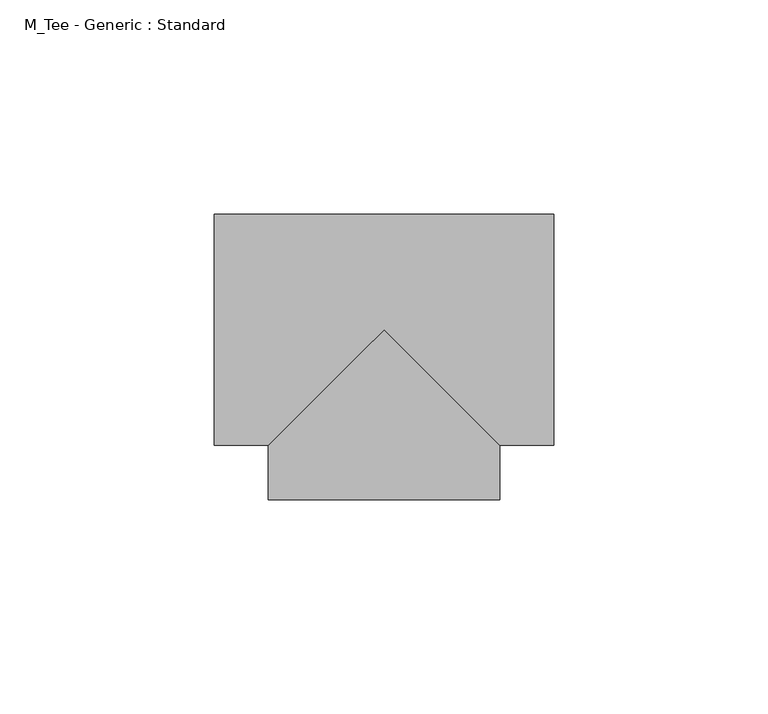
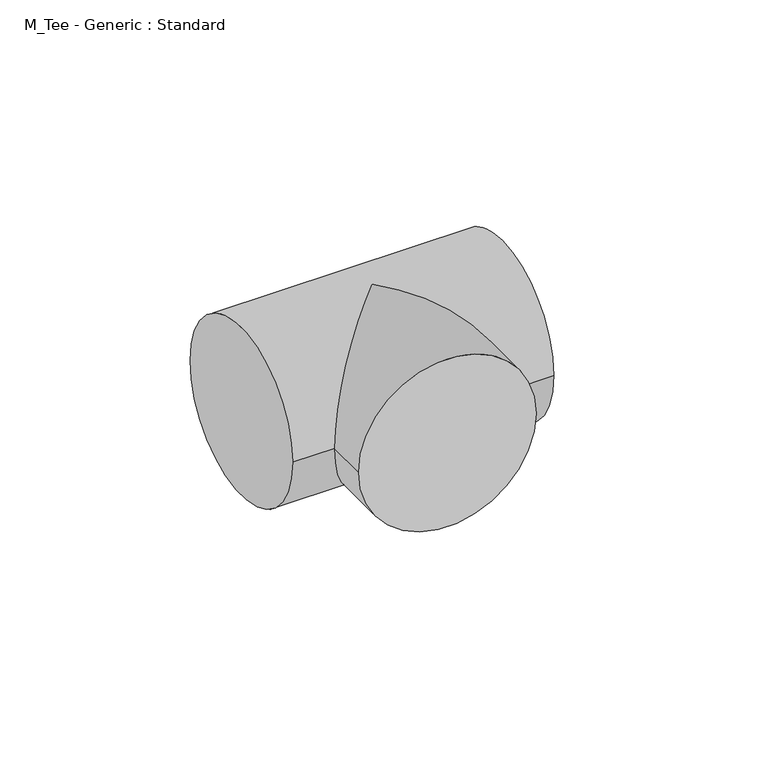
"""IFC4 building model written with IfcOpenShell, lengths in millimetres: pipe fitting geometry, M_Tee - Generic : Standard."""

from ifc_helpers import new_model, si_unit, frame, origin, place, context, project, spatial, circle_curve, ellipse_curve, source, transform, mapped, element, save
from ifc_brep_helpers import plane_surface, cylinder_surface, advanced_brep


def m_tee_generic_standard_1efde03b(model_context):
    return source(origin(), model_context, "Body", "AdvancedBrep", [
        advanced_brep(
        [(-39.6875, -26.9875, 0.0), (-39.6875, 26.9875, 0.0), (39.6875, -26.9875, 0.0), (39.6875, 26.9875, 0.0), (-26.9875, -26.9875, 0.0), (0.0, 0.0, 26.9875), (26.9875, -26.9875, 0.0), (0.0, 0.0, -26.9875), (-26.9875, -39.6875, 0.0), (26.9875, -39.6875, 0.0)],
        [
            (0, 1, circle_curve(frame((-39.6875, 0.0, 0.0), z_axis=(-1.0, 0.0, 0.0), x_axis=(0.0, 1.0, 0.0)), 26.9875)),
            (1, 0, circle_curve(frame((-39.6875, 0.0, 0.0), z_axis=(-1.0, 0.0, 0.0), x_axis=(0.0, 1.0, 0.0)), 26.9875)),
            (2, 3, circle_curve(frame((39.6875, 0.0, 0.0), z_axis=(1.0, 0.0, 0.0), x_axis=(0.0, 1.0, 0.0)), 26.9875)),
            (3, 2, circle_curve(frame((39.6875, 0.0, 0.0), z_axis=(1.0, 0.0, 0.0), x_axis=(0.0, 1.0, 0.0)), 26.9875)),
            (0, 4),
            (4, 5, ellipse_curve(frame((0.0, 0.0, 0.0), z_axis=(-0.707106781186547, 0.7071067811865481, 0.0), x_axis=(-0.707106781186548, -0.707106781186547, 0.0)), 38.1660885, 26.9875)),
            (5, 6, ellipse_curve(frame((0.0, 0.0, 0.0), z_axis=(0.707106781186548, 0.7071067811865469, 0.0), x_axis=(-0.707106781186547, 0.707106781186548, 0.0)), 38.1660885, 26.9875)),
            (6, 2),
            (3, 1),
            (6, 7, ellipse_curve(frame((0.0, 0.0, 0.0), z_axis=(0.707106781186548, 0.7071067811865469, 0.0), x_axis=(-0.707106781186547, 0.707106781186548, 0.0)), 38.1660885, 26.9875)),
            (7, 4, ellipse_curve(frame((0.0, 0.0, 0.0), z_axis=(-0.707106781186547, 0.7071067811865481, 0.0), x_axis=(-0.707106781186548, -0.707106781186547, 0.0)), 38.1660885, 26.9875)),
            (8, 9, circle_curve(frame((0.0, -39.6875, 0.0), z_axis=(0.0, -1.0, 0.0), x_axis=(1.0, 0.0, 0.0)), 26.9875)),
            (9, 8, circle_curve(frame((0.0, -39.6875, 0.0), z_axis=(0.0, -1.0, 0.0), x_axis=(1.0, 0.0, 0.0)), 26.9875)),
            (9, 6),
            (4, 8),
        ],
        [
            plane_surface(frame((-39.6875, 0.0, 0.0), z_axis=(-1.0, 0.0, 0.0), x_axis=(0.0, 0.0, 1.0))),
            plane_surface(frame((39.6875, 0.0, 0.0), z_axis=(1.0, 0.0, 0.0), x_axis=(0.0, 0.0, 1.0))),
            cylinder_surface(frame((-39.6875, 0.0, 0.0), z_axis=(-1.0, 0.0, 0.0), x_axis=(0.0, 1.0, 0.0)), 26.9875),
            plane_surface(frame((0.0, -39.6875, 0.0), z_axis=(0.0, -1.0, 0.0), x_axis=(0.0, 0.0, 1.0))),
            cylinder_surface(frame((0.0, 0.0, 0.0), z_axis=(0.0, 1.0, 0.0), x_axis=(1.0, 0.0, 0.0)), 26.9875),
        ],
        [
            (0, [[1, 2]]),
            (1, [[3, 4]]),
            (2, [[-1, 5, 6, 7, 8, -4, 9]]),
            (2, [[-2, -9, -3, -8, 10, 11, -5]]),
            (3, [[12, 13]]),
            (4, [[-13, 14, -7, -6, 15]]),
            (4, [[-12, -15, -11, -10, -14]]),
        ],
    ),
    ])


if __name__ == "__main__":
    model = new_model("IFC4")
    model_context = context("Model", 3, world=origin())
    ifc_project = project(units=[si_unit("LENGTHUNIT", "METRE", prefix="MILLI")], contexts=[model_context])
    site = spatial("IfcSite", under=ifc_project)
    building = spatial("IfcBuilding", under=site)
    placement = place(None, origin())
    m_tee_generic_standard_shape = m_tee_generic_standard_1efde03b(model_context)
    element("IfcPipeFitting", 1, ObjectType="M_Tee - Generic : Standard", at=placement, inside=building, context=model_context, shape_type="MappedRepresentation", body=[
        mapped(m_tee_generic_standard_shape, transform((0.0, 0.0, 0.0), x_axis=(1.0, 0.0, 0.0), y_axis=(0.0, 1.0, 0.0), z_axis=(0.0, 0.0, 1.0))),
    ])
    save(model, "model.ifc")
